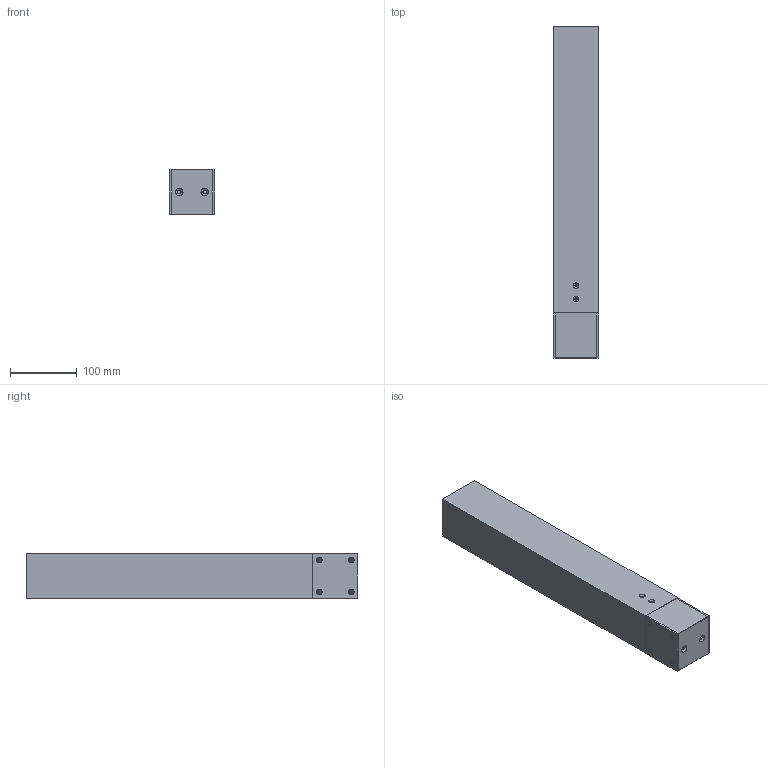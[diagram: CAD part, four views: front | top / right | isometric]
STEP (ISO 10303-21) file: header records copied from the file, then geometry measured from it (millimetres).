
FILE_DESCRIPTION((''),'2;1');
FILE_NAME('ADATTATORE-PALO60_SW0002','2025-07-23T11:27:23',('Piccioli'),(''),'CREO PARAMETRIC BY PTC INC, 2025010','CREO PARAMETRIC BY PTC INC, 2025010','');
FILE_SCHEMA(('CONFIG_CONTROL_DESIGN'));
Products named in the file (1): ADATTATORE-PALO60_SW0002
Bounding box: 68 x 498.5 x 68 mm (x, y, z)
Surface area: 290599.4 mm2 (no closed solid volume)
Topology: 0 solids, 106 shells, 467 faces, 2704 edges, 2328 vertices
Faces by surface type: plane 210, cylinder 156, cone 48, torus 40, sphere 9, bspline 4
Entity records: 65869 total; most frequent: CARTESIAN_POINT 46200, DIRECTION 4006, ORIENTED_EDGE 3218, EDGE_CURVE 2704, VERTEX_POINT 2328, AXIS2_PLACEMENT_3D 1429, VECTOR 1148, LINE 1148
